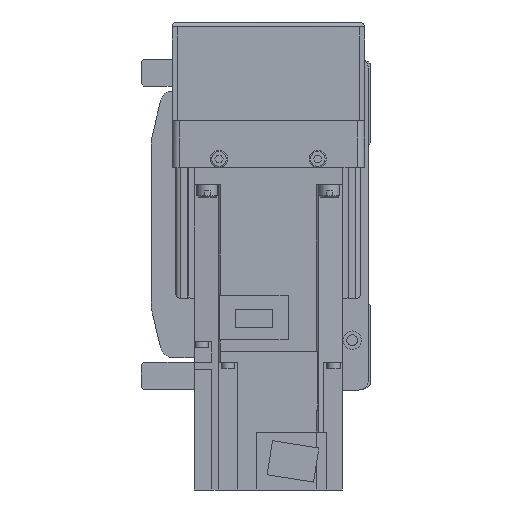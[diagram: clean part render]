
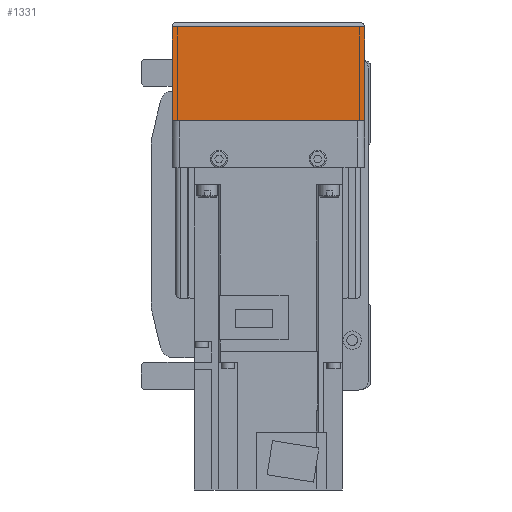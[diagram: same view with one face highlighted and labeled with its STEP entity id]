
A CAD part, left-side view. The second image highlights one B-rep face of the part: STEP entity #1331.
In plain terms, the highlighted planar face has unit normal (-1, 0, 0).
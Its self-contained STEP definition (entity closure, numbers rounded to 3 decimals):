
#1331 = ADVANCED_FACE( '', ( #3440 ), #3441, .F. );
#3440 = FACE_OUTER_BOUND( '', #6572, .T. );
#3441 = PLANE( '', #6573 );
#6572 = EDGE_LOOP( '', ( #10286, #10287, #10288, #10289 ) );
#6573 = AXIS2_PLACEMENT_3D( '', #10290, #10291, #10292 );
#10286 = ORIENTED_EDGE( '', *, *, #18534, .F. );
#10287 = ORIENTED_EDGE( '', *, *, #18535, .F. );
#10288 = ORIENTED_EDGE( '', *, *, #18536, .T. );
#10289 = ORIENTED_EDGE( '', *, *, #18537, .F. );
#10290 = CARTESIAN_POINT( '', ( -158., 36., 7. ) );
#10291 = DIRECTION( '', ( 1., 0., 0. ) );
#10292 = DIRECTION( '', ( 0., 0., -1. ) );
#18534 = EDGE_CURVE( '', #22311, #22323, #22324, .T. );
#18535 = EDGE_CURVE( '', #22325, #22311, #22326, .T. );
#18536 = EDGE_CURVE( '', #22325, #22327, #22328, .T. );
#18537 = EDGE_CURVE( '', #22323, #22327, #22329, .T. );
#22311 = VERTEX_POINT( '', #27708 );
#22323 = VERTEX_POINT( '', #27725 );
#22324 = LINE( '', #27726, #27727 );
#22325 = VERTEX_POINT( '', #27728 );
#22326 = LINE( '', #27729, #27730 );
#22327 = VERTEX_POINT( '', #27731 );
#22328 = LINE( '', #27732, #27733 );
#22329 = LINE( '', #27734, #27735 );
#27708 = CARTESIAN_POINT( '', ( -158., 39., -12.1 ) );
#27725 = CARTESIAN_POINT( '', ( -158., -39., -12.1 ) );
#27726 = CARTESIAN_POINT( '', ( -158., 50., -12.1 ) );
#27727 = VECTOR( '', #34145, 1000. );
#27728 = CARTESIAN_POINT( '', ( -158., 39., -50. ) );
#27729 = CARTESIAN_POINT( '', ( -158., 39., -50. ) );
#27730 = VECTOR( '', #34146, 1000. );
#27731 = CARTESIAN_POINT( '', ( -158., -39., -50. ) );
#27732 = CARTESIAN_POINT( '', ( -158., 40., -50. ) );
#27733 = VECTOR( '', #34147, 1000. );
#27734 = CARTESIAN_POINT( '', ( -158., -39., -12.1 ) );
#27735 = VECTOR( '', #34148, 1000. );
#34145 = DIRECTION( '', ( 0., -1., 0. ) );
#34146 = DIRECTION( '', ( 0., 0., 1. ) );
#34147 = DIRECTION( '', ( 0., -1., 0. ) );
#34148 = DIRECTION( '', ( 0., 0., -1. ) );
